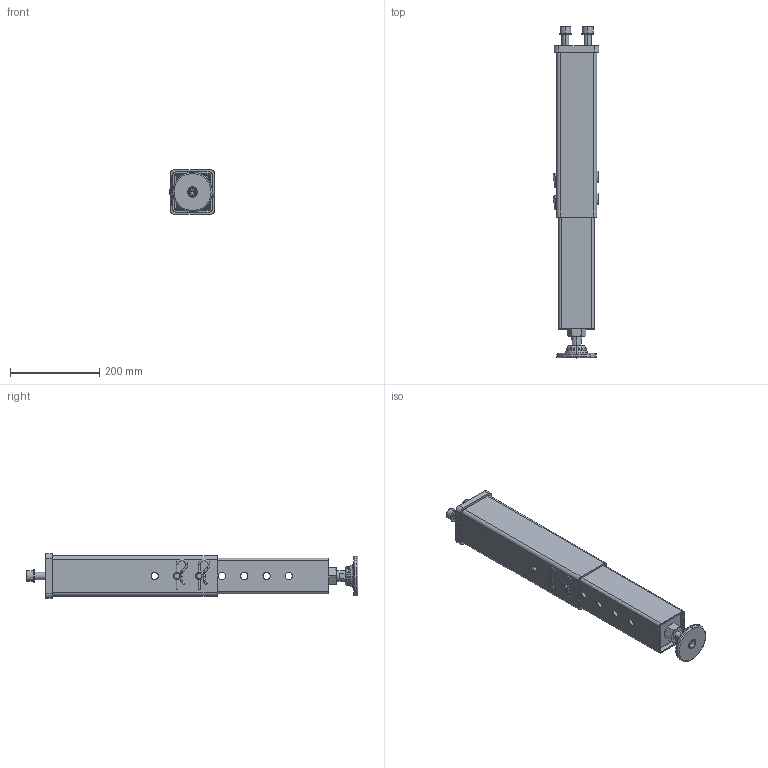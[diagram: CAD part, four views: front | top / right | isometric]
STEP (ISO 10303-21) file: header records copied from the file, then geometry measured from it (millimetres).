
FILE_DESCRIPTION (( 'STEP AP203' ), '1' );
FILE_NAME ('280878.STEP', '2020-07-07T08:36:09', ( '' ), ( '' ), 'SwSTEP 2.0', 'SolidWorks 2019', '' );
FILE_SCHEMA (( 'CONFIG_CONTROL_DESIGN' ));
Length unit declared in the file: millimetre
Products named in the file (16): M 24x1,5 Spindel 100^280855.X.1 Fußteller mit Spindel_ohne gew; Bolzen für Höhenverst. ExtremeFuß; Platte oben^280878.X Schweißteil Fuß oben; 280878.X Schweißteil Fuß unten; Federring DIN 127 B - 16 - verzinkt; ISO 8673 M24x1,5-verzinkt_0; 280855.X.1 Fußteller mit Spindel_Einfach; 280878.X Schweißteil Fuß oben; Innenrohr^280878.X Schweißteil Fuß unten_Standard<Wie bearbeitet>; Fussteller^280855.X.1 Fußteller mit Spindel; ISO 4762 - M12 x 25 - verzinkt_0; ISO 4762 - M16 x 50 - verzinkt_0; 280878;  Hohlprofil 90x90x4^280878.X Schweißteil Fuß oben_Standard<Wie bearbeitet>; Aufnahme Fussspindel^280878.X Schweißteil Fuß unten; Federstecker
Assembly tree (19 placements, depth 3):
  280878
    280878.X Schweißteil Fuß oben
       Hohlprofil 90x90x4^280878.X Schweißteil Fuß oben_Standard<Wie bearbeitet>
      Platte oben^280878.X Schweißteil Fuß oben
    280878.X Schweißteil Fuß unten
      Innenrohr^280878.X Schweißteil Fuß unten_Standard<Wie bearbeitet>
      Aufnahme Fussspindel^280878.X Schweißteil Fuß unten
    280855.X.1 Fußteller mit Spindel_Einfach
      M 24x1,5 Spindel 100^280855.X.1 Fußteller mit Spindel_ohne gew
      Fussteller^280855.X.1 Fußteller mit Spindel
      ISO 4762 - M12 x 25 - verzinkt_0
    ISO 8673 M24x1,5-verzinkt_0
    Bolzen für Höhenverst. ExtremeFuß  x2
    Federstecker  x2
    ISO 4762 - M16 x 50 - verzinkt_0  x2
    Federring DIN 127 B - 16 - verzinkt  x2
Bounding box: 102.5 x 744.5 x 100 mm (x, y, z)
Volume: 1284877.7 mm3; surface area: 572389.8 mm2
Topology: 16 solids, 16 shells, 353 faces, 823 edges, 496 vertices
Faces by surface type: cylinder 126, plane 116, torus 56, cone 55
Entity records: 10197 total; most frequent: CARTESIAN_POINT 1654, DIRECTION 1557, ORIENTED_EDGE 1306, EDGE_CURVE 653, AXIS2_PLACEMENT_3D 630, VERTEX_POINT 403, EDGE_LOOP 336, CIRCLE 326
